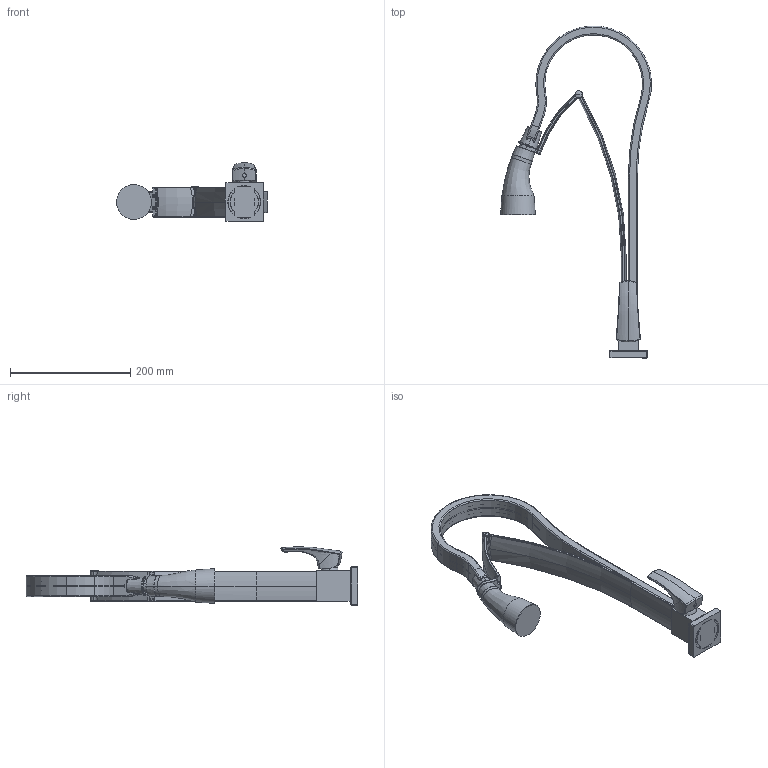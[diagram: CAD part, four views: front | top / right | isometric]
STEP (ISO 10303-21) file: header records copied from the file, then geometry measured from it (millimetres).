
FILE_DESCRIPTION(('CoCreate Modeling STEP Export'),'2;1');
FILE_NAME('I-KIC-MANUALE.stp','2012-06-01T16:30:41',(''),(''),'CoCreate Modeling STEP processor for AP214 (Solid Model)','CoCreate Modeling 17.0 01-Apr-2010 (C) Parametric Technology GmbH','');
FILE_SCHEMA(('AUTOMOTIVE_DESIGN { 1 0 10303 214 1 1 1 1 }'));
Products named in the file (2): p1
Assembly tree (1 placements, depth 2):
  p1
    p1
Bounding box: 251.28 x 552.9 x 97.44 mm (x, y, z)
Volume: 711352 mm3; surface area: 321768.6 mm2
Topology: 1 solids, 16 shells, 821 faces, 1866 edges, 1085 vertices
Faces by surface type: cylinder 247, bspline 156, plane 134, torus 128, cone 56, revolution 51, extrusion 33, sphere 16
Entity records: 50051 total; most frequent: CARTESIAN_POINT 34693, ORIENTED_EDGE 3692, DIRECTION 2465, EDGE_CURVE 1846, VERTEX_POINT 1085, AXIS2_PLACEMENT_3D 948, EDGE_LOOP 863, FACE_OUTER_BOUND 821
